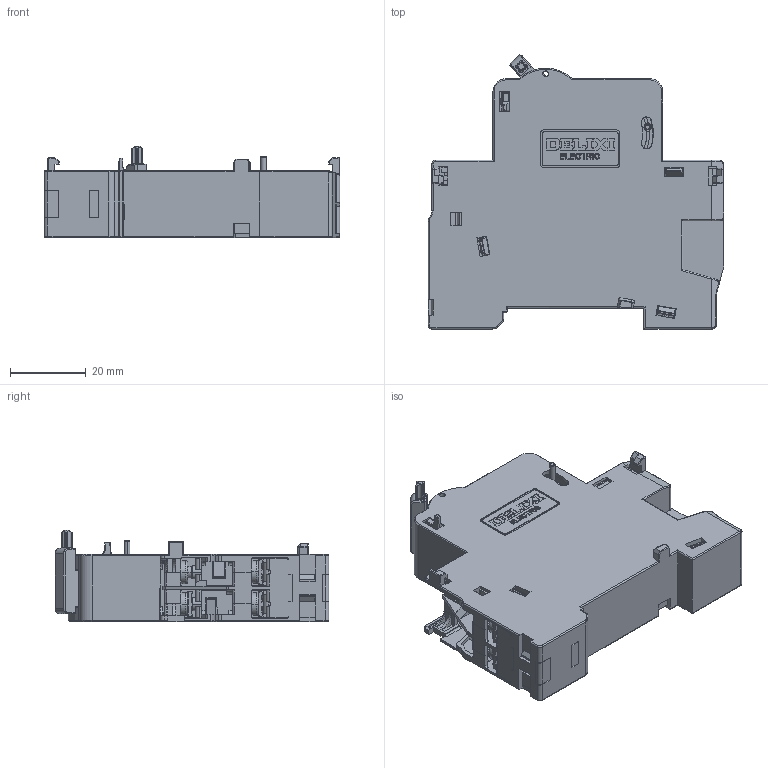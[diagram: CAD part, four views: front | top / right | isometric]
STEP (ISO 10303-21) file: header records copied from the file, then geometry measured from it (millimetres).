
FILE_DESCRIPTION((''),'2;1');
FILE_NAME('2297007500_SW0002','2023-11-07T',('dufeng.zhai'),(''),'PRO/ENGINEER BY PARAMETRIC TECHNOLOGY CORPORATION, 2015440','PRO/ENGINEER BY PARAMETRIC TECHNOLOGY CORPORATION, 2015440','');
FILE_SCHEMA(('CONFIG_CONTROL_DESIGN'));
Products named in the file (1): 2297007500_SW0002
Bounding box: 78 x 72.26 x 24.05 mm (x, y, z)
Volume: 56620.3 mm3; surface area: 36089.9 mm2
Topology: 2 solids, 2 shells, 2974 faces, 8281 edges, 5260 vertices
Faces by surface type: plane 1850, cylinder 745, torus 98, cone 94, bspline 81, sphere 63, extrusion 43
Entity records: 102270 total; most frequent: CARTESIAN_POINT 26309, ORIENTED_EDGE 16562, DIRECTION 14977, EDGE_CURVE 8281, VECTOR 6023, LINE 5980, VERTEX_POINT 5260, AXIS2_PLACEMENT_3D 4477
